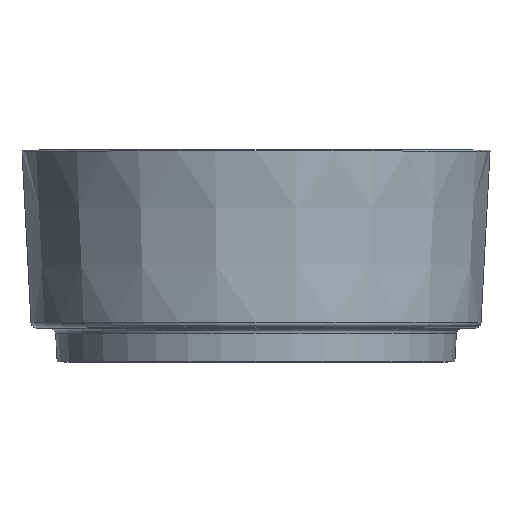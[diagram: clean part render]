
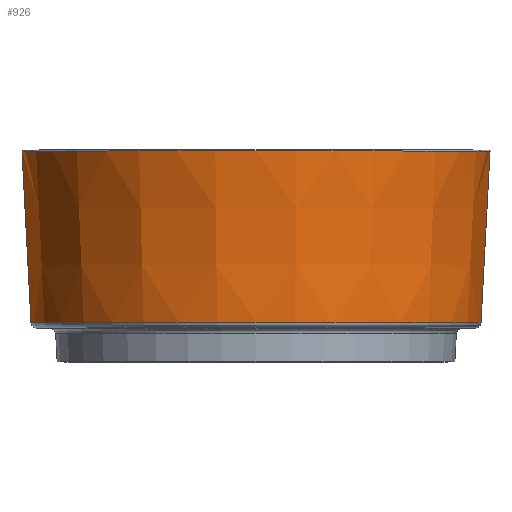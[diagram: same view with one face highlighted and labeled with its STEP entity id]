
A CAD part, top view. The second image highlights one B-rep face of the part: STEP entity #926.
In plain terms, the highlighted conical face has half-angle 3 degrees and reference radius 210 mm.
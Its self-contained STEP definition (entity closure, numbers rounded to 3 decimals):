
#926 = ADVANCED_FACE ( 'NONE', ( #8555 ), #9765, .T. ) ;
#1324 = LINE ( 'NONE', #6200, #4376 ) ;
#1909 = CARTESIAN_POINT ( 'NONE',  ( -210., 147., 0. ) ) ;
#2451 = CARTESIAN_POINT ( 'NONE',  ( 0., 145.948, 0. ) ) ;
#2482 = DIRECTION ( 'NONE',  ( 0., 1., 0. ) ) ;
#3067 = VERTEX_POINT ( 'NONE', #13696 ) ;
#3639 = CARTESIAN_POINT ( 'NONE',  ( -209.945, 145.948, 0. ) ) ;
#4376 = VECTOR ( 'NONE', #11075, 1000. ) ;
#5007 = EDGE_CURVE ( 'NONE', #13114, #12281, #5252, .T. ) ;
#5252 = CIRCLE ( 'NONE', #8561, 209.945 ) ;
#5266 = AXIS2_PLACEMENT_3D ( 'NONE', #14157, #6878, #11765 ) ;
#5914 = EDGE_CURVE ( 'NONE', #13582, #3067, #12162, .T. ) ;
#5970 = ORIENTED_EDGE ( 'NONE', *, *, #5007, .T. ) ;
#6160 = ORIENTED_EDGE ( 'NONE', *, *, #5914, .T. ) ;
#6200 = CARTESIAN_POINT ( 'NONE',  ( 210., 147., 0. ) ) ;
#6785 = DIRECTION ( 'NONE',  ( -0.052, 0.999, 0. ) ) ;
#6878 = DIRECTION ( 'NONE',  ( 0., 1., 0. ) ) ;
#7327 = DIRECTION ( 'NONE',  ( 0., -1., 0. ) ) ;
#7358 = DIRECTION ( 'NONE',  ( 1., 0., 0. ) ) ;
#8555 = FACE_OUTER_BOUND ( 'NONE', #13276, .T. ) ;
#8561 = AXIS2_PLACEMENT_3D ( 'NONE', #2451, #7327, #12215 ) ;
#8699 = CARTESIAN_POINT ( 'NONE',  ( 209.945, 145.948, 0. ) ) ;
#9736 = EDGE_CURVE ( 'NONE', #3067, #13114, #1324, .T. ) ;
#9765 = CONICAL_SURFACE ( 'NONE', #15143, 210., 0.052 ) ;
#11075 = DIRECTION ( 'NONE',  ( 0.052, 0.999, 0. ) ) ;
#11765 = DIRECTION ( 'NONE',  ( -1., 0., 0. ) ) ;
#12162 = CIRCLE ( 'NONE', #5266, 201.879 ) ;
#12215 = DIRECTION ( 'NONE',  ( 1., 0., 0. ) ) ;
#12281 = VERTEX_POINT ( 'NONE', #3639 ) ;
#12702 = ORIENTED_EDGE ( 'NONE', *, *, #13508, .F. ) ;
#12877 = LINE ( 'NONE', #1909, #13665 ) ;
#13114 = VERTEX_POINT ( 'NONE', #8699 ) ;
#13276 = EDGE_LOOP ( 'NONE', ( #12702, #6160, #14240, #5970 ) ) ;
#13448 = CARTESIAN_POINT ( 'NONE',  ( 0., 147., 0. ) ) ;
#13508 = EDGE_CURVE ( 'NONE', #13582, #12281, #12877, .T. ) ;
#13582 = VERTEX_POINT ( 'NONE', #14459 ) ;
#13665 = VECTOR ( 'NONE', #6785, 1000. ) ;
#13696 = CARTESIAN_POINT ( 'NONE',  ( 201.879, -7.966, 0. ) ) ;
#14157 = CARTESIAN_POINT ( 'NONE',  ( 0., -7.966, 0. ) ) ;
#14240 = ORIENTED_EDGE ( 'NONE', *, *, #9736, .T. ) ;
#14459 = CARTESIAN_POINT ( 'NONE',  ( -201.879, -7.966, 0. ) ) ;
#15143 = AXIS2_PLACEMENT_3D ( 'NONE', #13448, #2482, #7358 ) ;
